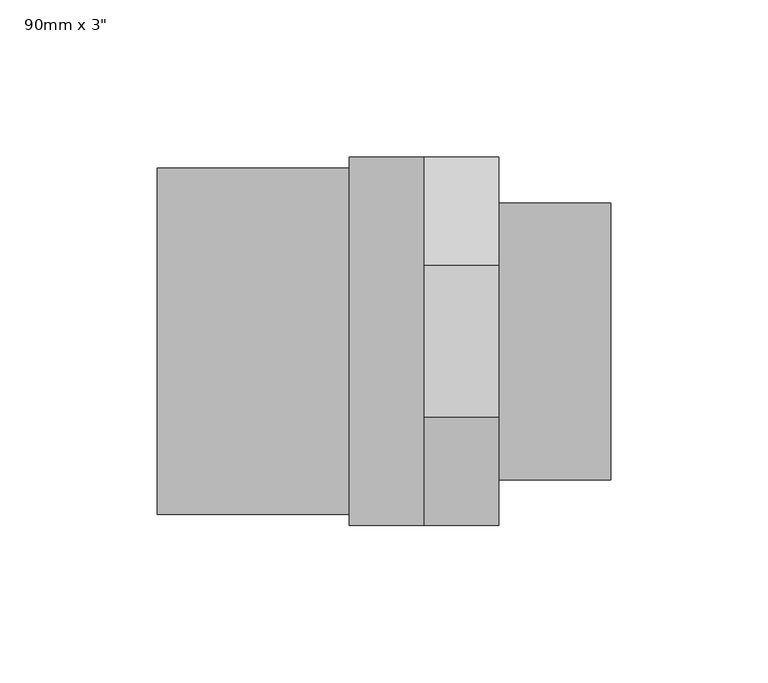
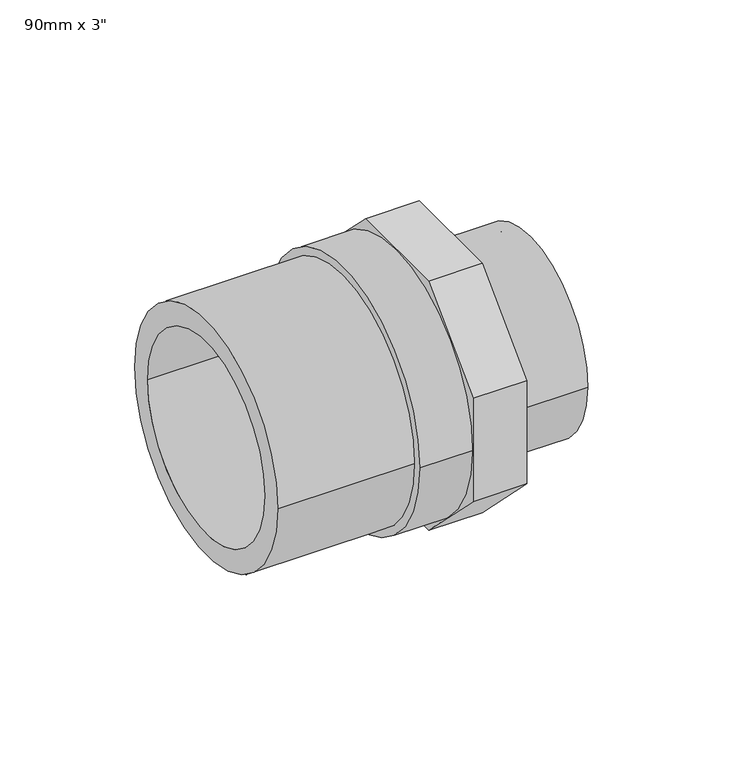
"""IFC4 building model written with IfcOpenShell, lengths in millimetres: pipe fitting geometry."""

from ifc_helpers import new_model, si_unit, point, frame, origin, origin_2d, place, context, project, spatial, polyline, circle_curve, trimmed, segment, composite_curve, outline, extrude, source, transform, mapped, element, save


def pipe_fitting_c5c13b10(model_context):
    return source(origin(), model_context, "Body", "SweptSolid", [
        extrude(outline(composite_curve([segment(trimmed(circle_curve(origin_2d(), 44.0), [point((-44.0, 0.0))], [point((44.0, 0.0))], False, "CARTESIAN"), True, "CONTINUOUS"), segment(trimmed(circle_curve(origin_2d(), 44.0), [point((44.0, 0.0))], [point((-44.0, 0.0))], False, "CARTESIAN"), True, "CONTINUOUS")], self_intersect=False), holes=[composite_curve([segment(trimmed(circle_curve(origin_2d(), 39.5), [point((-39.5, 0.0))], [point((39.5, 0.0))], True, "CARTESIAN"), True, "CONTINUOUS"), segment(trimmed(circle_curve(origin_2d(), 39.5), [point((39.5, 0.0))], [point((-39.5, 0.0))], True, "CARTESIAN"), True, "CONTINUOUS")], self_intersect=False)]), frame((36.5, 0.0, 0.0), z_axis=(1.0, 0.0, 0.0), x_axis=(0.0, 1.0, 0.0)), (0.0, 0.0, 1.0), 35.5),
        extrude(outline(polyline([(24.2314934, 58.5), (58.5, 24.2314934), (58.5, -24.2314934), (24.2314934, -58.5), (-24.2314934, -58.5), (-58.5, -24.2314934), (-58.5, 24.2314934), (-24.2314934, 58.5), (24.2314934, 58.5)]), holes=[composite_curve([segment(trimmed(circle_curve(origin_2d(), 39.5), [point((-39.5, 0.0))], [point((39.5, 0.0))], True, "CARTESIAN"), True, "CONTINUOUS"), segment(trimmed(circle_curve(origin_2d(), 39.5), [point((39.5, 0.0))], [point((-39.5, 0.0))], True, "CARTESIAN"), True, "CONTINUOUS")], self_intersect=False)]), frame((12.75, 0.0, 0.0), z_axis=(1.0, 0.0, 0.0), x_axis=(0.0, 1.0, 0.0)), (0.0, 0.0, 1.0), 23.75),
        extrude(outline(composite_curve([segment(trimmed(circle_curve(origin_2d(), 58.5), [point((-58.5, 0.0))], [point((58.5, 0.0))], False, "CARTESIAN"), True, "CONTINUOUS"), segment(trimmed(circle_curve(origin_2d(), 58.5), [point((58.5, 0.0))], [point((-58.5, 0.0))], False, "CARTESIAN"), True, "CONTINUOUS")], self_intersect=False), holes=[composite_curve([segment(trimmed(circle_curve(origin_2d(), 39.5), [point((-39.5, 0.0))], [point((39.5, 0.0))], True, "CARTESIAN"), True, "CONTINUOUS"), segment(trimmed(circle_curve(origin_2d(), 39.5), [point((39.5, 0.0))], [point((-39.5, 0.0))], True, "CARTESIAN"), True, "CONTINUOUS")], self_intersect=False)]), frame((-11.0, 0.0, 0.0), z_axis=(1.0, 0.0, 0.0), x_axis=(0.0, 1.0, 0.0)), (0.0, 0.0, 1.0), 23.75),
        extrude(outline(composite_curve([segment(trimmed(circle_curve(origin_2d(), 55.0), [point((-55.0, 0.0))], [point((55.0, 0.0))], False, "CARTESIAN"), True, "CONTINUOUS"), segment(trimmed(circle_curve(origin_2d(), 55.0), [point((55.0, 0.0))], [point((-55.0, 0.0))], False, "CARTESIAN"), True, "CONTINUOUS")], self_intersect=False), holes=[composite_curve([segment(trimmed(circle_curve(origin_2d(), 45.0), [point((-45.0, 0.0))], [point((45.0, 0.0))], True, "CARTESIAN"), True, "CONTINUOUS"), segment(trimmed(circle_curve(origin_2d(), 45.0), [point((45.0, 0.0))], [point((-45.0, 0.0))], True, "CARTESIAN"), True, "CONTINUOUS")], self_intersect=False)]), frame((-72.0, 0.0, 0.0), z_axis=(1.0, 0.0, 0.0), x_axis=(0.0, 1.0, 0.0)), (0.0, 0.0, 1.0), 61.0),
    ])


if __name__ == "__main__":
    model = new_model("IFC4")
    model_context = context("Model", 3, world=origin())
    ifc_project = project(units=[si_unit("LENGTHUNIT", "METRE", prefix="MILLI")], contexts=[model_context])
    site = spatial("IfcSite", under=ifc_project)
    building = spatial("IfcBuilding", under=site)
    placement = place(None, origin())
    pipe_fitting_shape = pipe_fitting_c5c13b10(model_context)
    element("IfcPipeFitting", 1, ObjectType="PipeFitting_HTA_CPVC_AdaptorNipplesA : 90mm x 3\"", at=placement, inside=building, context=model_context, shape_type="MappedRepresentation", body=[
        mapped(pipe_fitting_shape, transform((0.0, 0.0, 0.0), x_axis=(1.0, 0.0, 0.0), y_axis=(0.0, 1.0, 0.0), z_axis=(0.0, 0.0, 1.0))),
    ])
    save(model, "model.ifc")
